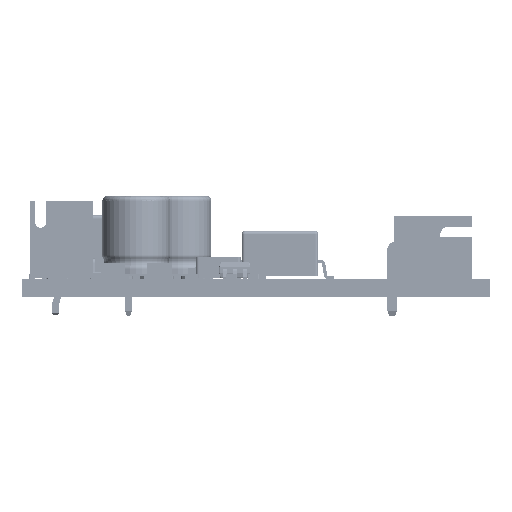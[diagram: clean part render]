
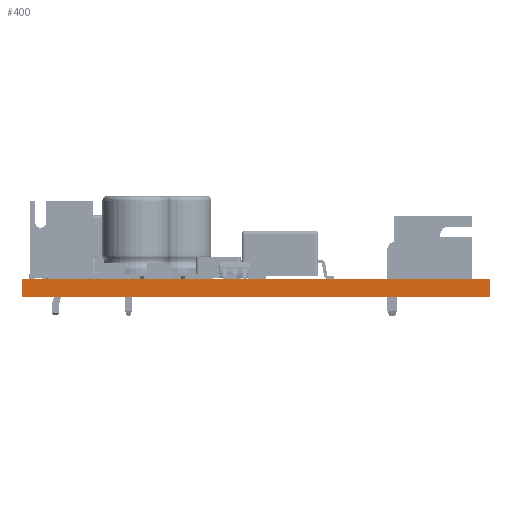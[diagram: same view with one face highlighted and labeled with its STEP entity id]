
A CAD part, left-side view. The second image highlights one B-rep face of the part: STEP entity #400.
In plain terms, the highlighted planar face has unit normal (-1, 0, 0).
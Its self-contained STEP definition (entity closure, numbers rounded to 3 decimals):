
#375 = VERTEX_POINT('',#376);
#376 = CARTESIAN_POINT('',(0.057,-0.186,
    1.6));
#382 = EDGE_CURVE('',#383,#375,#385,.T.);
#383 = VERTEX_POINT('',#384);
#384 = CARTESIAN_POINT('',(0.057,-0.186,0.));
#385 = LINE('',#386,#387);
#386 = CARTESIAN_POINT('',(0.057,-0.186,0.));
#387 = VECTOR('',#388,1.);
#388 = DIRECTION('',(0.,0.,1.));
#400 = ADVANCED_FACE('',(#401),#426,.T.);
#401 = FACE_BOUND('',#402,.T.);
#402 = EDGE_LOOP('',(#403,#404,#412,#420));
#403 = ORIENTED_EDGE('',*,*,#382,.T.);
#404 = ORIENTED_EDGE('',*,*,#405,.T.);
#405 = EDGE_CURVE('',#375,#406,#408,.T.);
#406 = VERTEX_POINT('',#407);
#407 = CARTESIAN_POINT('',(0.057,43.227,
    1.6));
#408 = LINE('',#409,#410);
#409 = CARTESIAN_POINT('',(0.057,-0.186,
    1.6));
#410 = VECTOR('',#411,1.);
#411 = DIRECTION('',(0.,1.,0.));
#412 = ORIENTED_EDGE('',*,*,#413,.F.);
#413 = EDGE_CURVE('',#414,#406,#416,.T.);
#414 = VERTEX_POINT('',#415);
#415 = CARTESIAN_POINT('',(0.057,43.227,0.));
#416 = LINE('',#417,#418);
#417 = CARTESIAN_POINT('',(0.057,43.227,0.));
#418 = VECTOR('',#419,1.);
#419 = DIRECTION('',(0.,0.,1.));
#420 = ORIENTED_EDGE('',*,*,#421,.F.);
#421 = EDGE_CURVE('',#383,#414,#422,.T.);
#422 = LINE('',#423,#424);
#423 = CARTESIAN_POINT('',(0.057,-0.186,0.));
#424 = VECTOR('',#425,1.);
#425 = DIRECTION('',(0.,1.,0.));
#426 = PLANE('',#427);
#427 = AXIS2_PLACEMENT_3D('',#428,#429,#430);
#428 = CARTESIAN_POINT('',(0.057,-0.186,0.));
#429 = DIRECTION('',(-1.,0.,0.));
#430 = DIRECTION('',(0.,1.,0.));
